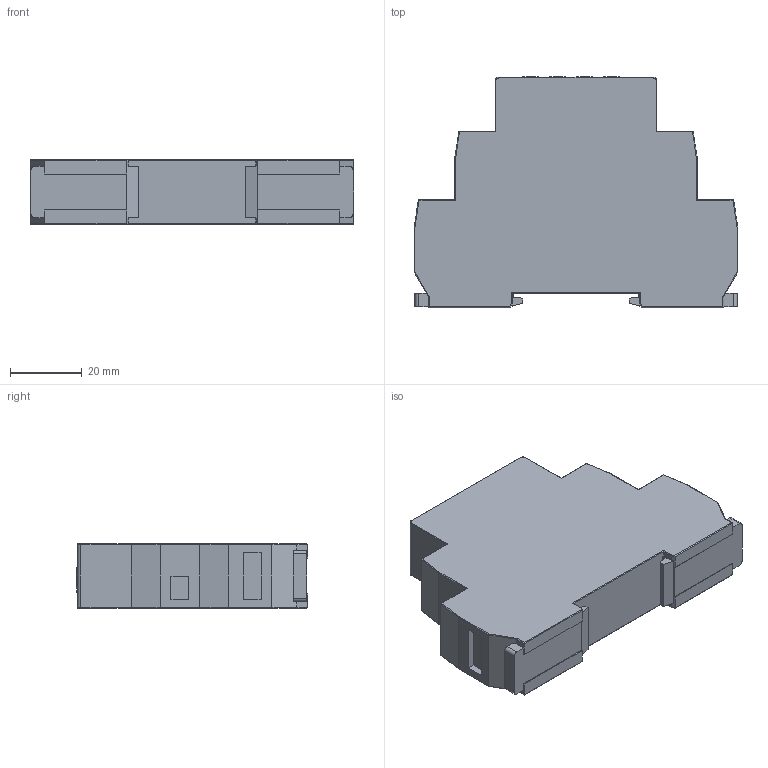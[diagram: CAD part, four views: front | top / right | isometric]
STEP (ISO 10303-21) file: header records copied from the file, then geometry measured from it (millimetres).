
FILE_DESCRIPTION (( 'STEP AP214' ), '1' );
FILE_NAME ('GEYA_GRI8_0304_3D.STEP', '2023-11-02T07:25:58', ( '' ), ( '' ), 'SwSTEP 2.0', 'SolidWorks 2018', '' );
FILE_SCHEMA (( 'AUTOMOTIVE_DESIGN' ));
Length unit declared in the file: millimetre
Products named in the file (1): GEYA_GRI8_0304_3D
Bounding box: 90 x 64.27 x 17.8 mm (x, y, z)
Volume: 78705.7 mm3; surface area: 15743.1 mm2
Topology: 1 solids, 1 shells, 527 faces, 1292 edges, 794 vertices
Faces by surface type: plane 344, cylinder 119, cone 52, bspline 12
Entity records: 18297 total; most frequent: CARTESIAN_POINT 3319, ORIENTED_EDGE 2576, DIRECTION 2430, EDGE_CURVE 1288, VECTOR 850, LINE 850, VERTEX_POINT 794, AXIS2_PLACEMENT_3D 790
